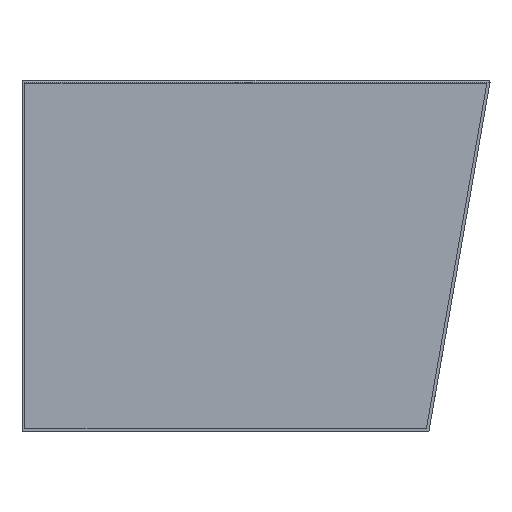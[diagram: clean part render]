
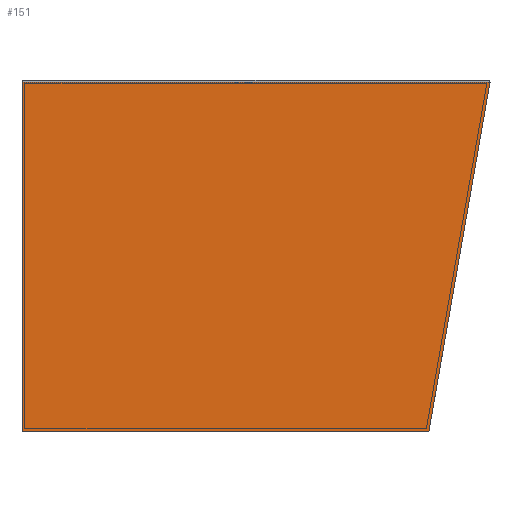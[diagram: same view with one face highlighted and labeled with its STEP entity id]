
A CAD part, left-side view. The second image highlights one B-rep face of the part: STEP entity #151.
In plain terms, the highlighted planar face has unit normal (-1, 0, 0).
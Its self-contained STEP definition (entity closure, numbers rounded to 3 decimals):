
#124=FACE_OUTER_BOUND('',#233,.T.);
#140=CIRCLE('',#581,3.);
#151=ADVANCED_FACE('',(#124),#183,.T.);
#183=PLANE('',#582);
#233=EDGE_LOOP('',(#345,#346,#347,#348,#349));
#276=LINE('',#774,#300);
#288=LINE('',#1115,#312);
#289=LINE('',#1120,#313);
#300=VECTOR('',#610,1.);
#312=VECTOR('',#630,1.);
#313=VECTOR('',#635,1.);
#345=ORIENTED_EDGE('',*,*,#508,.T.);
#346=ORIENTED_EDGE('',*,*,#509,.T.);
#347=ORIENTED_EDGE('',*,*,#507,.T.);
#348=ORIENTED_EDGE('',*,*,#489,.F.);
#349=ORIENTED_EDGE('',*,*,#510,.F.);
#444=VERTEX_POINT('',#772);
#446=VERTEX_POINT('',#775);
#460=VERTEX_POINT('',#1110);
#463=VERTEX_POINT('',#1118);
#464=VERTEX_POINT('',#1119);
#489=EDGE_CURVE('',#444,#446,#276,.T.);
#507=EDGE_CURVE('',#460,#446,#288,.T.);
#508=EDGE_CURVE('',#463,#464,#140,.T.);
#509=EDGE_CURVE('',#464,#460,#289,.T.);
#510=EDGE_CURVE('',#463,#444,#554,.T.);
#554=B_SPLINE_CURVE_WITH_KNOTS('',1,(#1121,#1122),.UNSPECIFIED.,.F.,.F.,
(2,2),(0.,1.),.UNSPECIFIED.);
#581=AXIS2_PLACEMENT_3D('',#1117,#633,#634);
#582=AXIS2_PLACEMENT_3D('',#1123,#636,#637);
#610=DIRECTION('',(0.,1.,0.));
#630=DIRECTION('',(0.,0.,-1.));
#633=DIRECTION('',(-1.,0.,0.));
#634=DIRECTION('',(0.,0.,1.));
#635=DIRECTION('',(0.,1.,0.));
#636=DIRECTION('',(-1.,0.,0.));
#637=DIRECTION('',(0.,1.,0.));
#772=CARTESIAN_POINT('',(-850.,-264.,-600.));
#774=CARTESIAN_POINT('',(-850.,83.5,-600.));
#775=CARTESIAN_POINT('',(-850.,431.,-600.));
#1110=CARTESIAN_POINT('',(-850.,431.,-3.));
#1115=CARTESIAN_POINT('',(-850.,431.,-300.));
#1117=CARTESIAN_POINT('',(-850.,-365.429,-3.));
#1118=CARTESIAN_POINT('',(-850.,-368.385,-3.517));
#1119=CARTESIAN_POINT('',(-850.,-368.429,-3.));
#1120=CARTESIAN_POINT('',(-850.,431.,-3.));
#1121=CARTESIAN_POINT('',(-850.,-368.385,-3.517));
#1122=CARTESIAN_POINT('',(-850.,-264.,-600.));
#1123=CARTESIAN_POINT('',(-850.,31.,0.));
